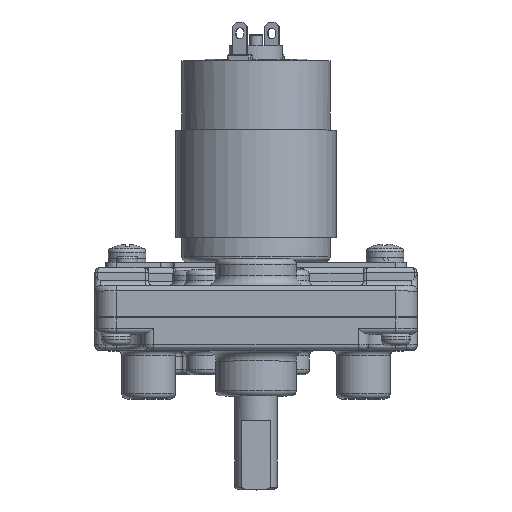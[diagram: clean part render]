
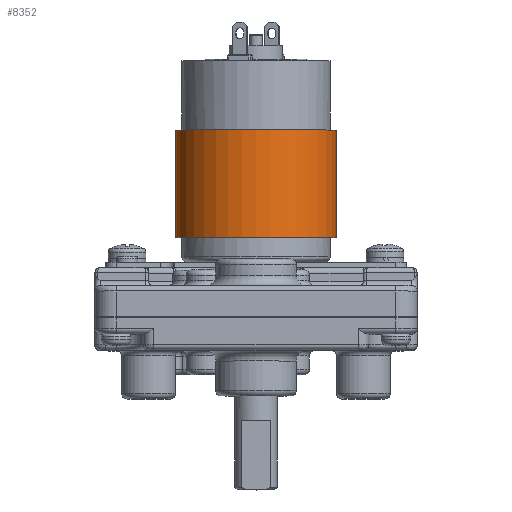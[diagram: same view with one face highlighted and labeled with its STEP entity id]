
A CAD part, top view. The second image highlights one B-rep face of the part: STEP entity #8352.
In plain terms, the highlighted cylindrical face has radius 15 mm (diameter 30 mm), a partial arc.
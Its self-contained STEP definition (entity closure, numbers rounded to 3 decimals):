
#642=FACE_OUTER_BOUND('',#1187,.T.);
#1187=EDGE_LOOP('',(#5637,#5638,#5639,#5640));
#1819=LINE('',#13193,#2391);
#1820=LINE('',#13196,#2392);
#2391=VECTOR('',#10265,10.);
#2392=VECTOR('',#10268,10.);
#2966=CIRCLE('',#9072,15.);
#2967=CIRCLE('',#9073,15.);
#3593=VERTEX_POINT('',#13189);
#3594=VERTEX_POINT('',#13190);
#3595=VERTEX_POINT('',#13192);
#3596=VERTEX_POINT('',#13194);
#4380=EDGE_CURVE('',#3593,#3594,#2966,.T.);
#4381=EDGE_CURVE('',#3595,#3594,#1819,.T.);
#4382=EDGE_CURVE('',#3595,#3596,#2967,.T.);
#4383=EDGE_CURVE('',#3596,#3593,#1820,.T.);
#5637=ORIENTED_EDGE('',*,*,#4380,.T.);
#5638=ORIENTED_EDGE('',*,*,#4381,.F.);
#5639=ORIENTED_EDGE('',*,*,#4382,.T.);
#5640=ORIENTED_EDGE('',*,*,#4383,.T.);
#8141=CYLINDRICAL_SURFACE('',#9071,15.);
#8352=ADVANCED_FACE('',(#642),#8141,.T.);
#9071=AXIS2_PLACEMENT_3D('',#13188,#10261,#10262);
#9072=AXIS2_PLACEMENT_3D('',#13191,#10263,#10264);
#9073=AXIS2_PLACEMENT_3D('',#13195,#10266,#10267);
#10261=DIRECTION('center_axis',(0.,1.,0.));
#10262=DIRECTION('ref_axis',(0.,0.,1.));
#10263=DIRECTION('center_axis',(0.,-1.,0.));
#10264=DIRECTION('ref_axis',(-0.083,0.,-0.997));
#10265=DIRECTION('',(0.,1.,0.));
#10266=DIRECTION('center_axis',(0.,1.,0.));
#10267=DIRECTION('ref_axis',(-0.083,0.,-0.997));
#10268=DIRECTION('',(0.,1.,0.));
#13188=CARTESIAN_POINT('Origin',(0.,4.6,0.));
#13189=CARTESIAN_POINT('',(1.25,24.6,-14.948));
#13190=CARTESIAN_POINT('',(-1.25,24.6,-14.948));
#13191=CARTESIAN_POINT('Origin',(0.,24.6,0.));
#13192=CARTESIAN_POINT('',(-1.25,4.6,-14.948));
#13193=CARTESIAN_POINT('',(-1.25,4.6,-14.948));
#13194=CARTESIAN_POINT('',(1.25,4.6,-14.948));
#13195=CARTESIAN_POINT('Origin',(0.,4.6,0.));
#13196=CARTESIAN_POINT('',(1.25,4.6,-14.948));
